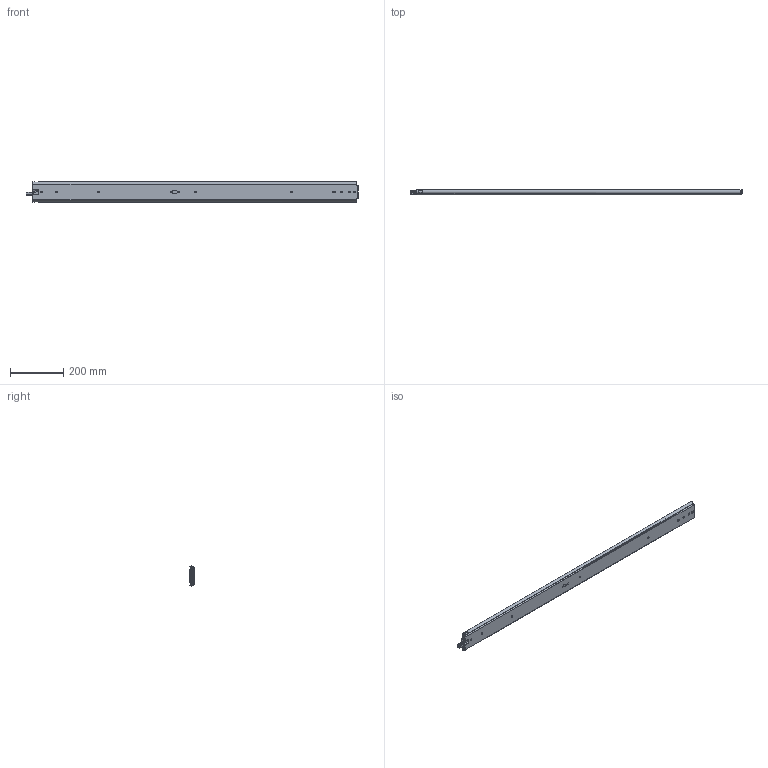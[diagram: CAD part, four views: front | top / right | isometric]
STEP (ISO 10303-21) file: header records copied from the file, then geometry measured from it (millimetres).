
FILE_DESCRIPTION((''),'2;1');
FILE_NAME('DG-76-3S-48ZUO_ASM','2023-05-11T',('jishu015'),(''),'PRO/ENGINEER BY PARAMETRIC TECHNOLOGY CORPORATION, 2010280','PRO/ENGINEER BY PARAMETRIC TECHNOLOGY CORPORATION, 2010280','');
FILE_SCHEMA(('CONFIG_CONTROL_DESIGN'));
Products named in the file (29): KP-76-04WAIKE-1816___________; 1076-WAIKEZIDANJIAO1621; WAIK16____________ASM; 1076XIAOZHUTIAO-2251621; 16___________; 1076XIAOZHUTIAO-1751621_ASM; KP-76-04ZHONGGUI1816___________; 76CHANGGUIZHONGGUIJIAO1621___; 3X6WODIN16___________; ZHONGGUIBAIKOU16___________; PJ-76-30__________; PJ-76-03__________; 76-XIAOZHUJIA-11__________; GANGZHU-XIAO__________; ZHUJIA-XIAO___________ASM; ZHONGGUI6____________ASM; KP-76-04NEIGUI1816___________; PJ-76-31__________; DAOGPIAN16___________; 1053-3SBANJ01__________; JIAO-11__________; 76XINSUOKOU__________; PJ-338__________; PJ-356__________; PJ-357__________; PJ-336__________; M4X4__________; NEIGUI16____________ASM; DG-76-3S-48ZUO_ASM
Assembly tree (95 placements, depth 4):
  DG-76-3S-48ZUO_ASM
    WAIK16____________ASM
      KP-76-04WAIKE-1816___________
      1076-WAIKEZIDANJIAO1621  x2
    1076XIAOZHUTIAO-1751621_ASM  x2
      1076XIAOZHUTIAO-2251621
      16___________
    ZHONGGUI6____________ASM
      KP-76-04ZHONGGUI1816___________
      76CHANGGUIZHONGGUIJIAO1621___
      3X6WODIN16___________
      ZHONGGUIBAIKOU16___________
      PJ-76-30__________
      PJ-76-03__________
      ZHUJIA-XIAO___________ASM
        76-XIAOZHUJIA-11__________
        GANGZHU-XIAO__________  x46
    NEIGUI16____________ASM
      KP-76-04NEIGUI1816___________
      PJ-76-31__________
      DAOGPIAN16___________
      1053-3SBANJ01__________
      JIAO-11__________
      76XINSUOKOU__________
      PJ-338__________
      PJ-356__________
      PJ-357__________
      PJ-336__________
      M4X4__________
Bounding box: 1245.12 x 20.7 x 75.3 mm (x, y, z)
Volume: 802679.6 mm3; surface area: 774385.1 mm2
Topology: 112 solids, 112 shells, 2682 faces, 8192 edges, 5169 vertices
Faces by surface type: plane 1384, cylinder 988, sphere 183, bspline 60, cone 28, extrusion 23, torus 16
Entity records: 86045 total; most frequent: CARTESIAN_POINT 22842, ORIENTED_EDGE 13904, DIRECTION 12468, EDGE_CURVE 6952, VERTEX_POINT 4529, AXIS2_PLACEMENT_3D 4314, VECTOR 3840, LINE 3817
